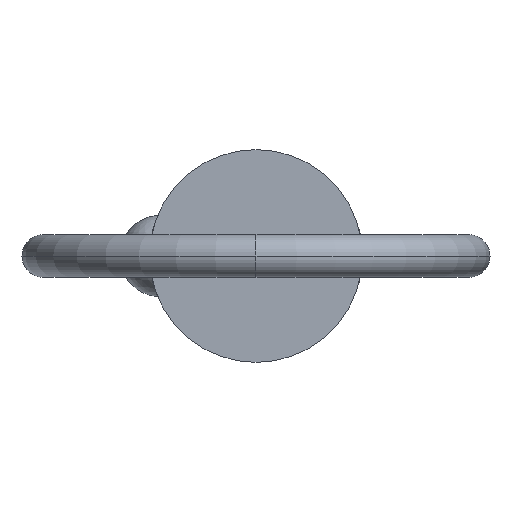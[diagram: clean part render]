
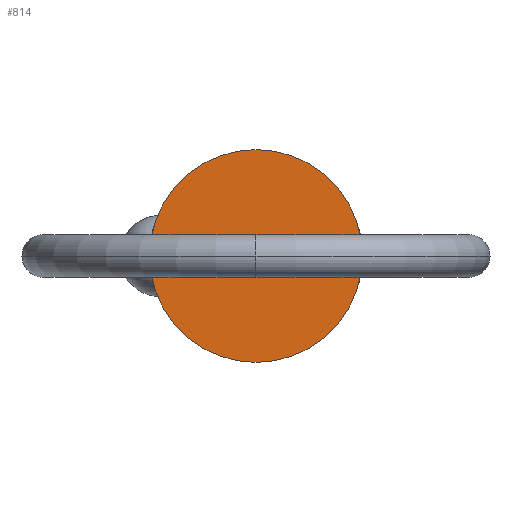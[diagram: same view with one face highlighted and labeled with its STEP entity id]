
A CAD part, left-side view. The second image highlights one B-rep face of the part: STEP entity #814.
In plain terms, the highlighted planar face has unit normal (-1, 0, 0).
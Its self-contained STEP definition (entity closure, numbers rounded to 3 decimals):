
#59 = EDGE_CURVE ( 'NONE', #478, #434, #821, .T. ) ;
#62 = PLANE ( 'NONE',  #227 ) ;
#135 = CARTESIAN_POINT ( 'NONE',  ( 0., 0., 0. ) ) ;
#227 = AXIS2_PLACEMENT_3D ( 'NONE', #135, #542, #824 ) ;
#265 = EDGE_LOOP ( 'NONE', ( #730, #725 ) ) ;
#323 = AXIS2_PLACEMENT_3D ( 'NONE', #544, #822, #757 ) ;
#339 = FACE_OUTER_BOUND ( 'NONE', #265, .T. ) ;
#434 = VERTEX_POINT ( 'NONE', #623 ) ;
#478 = VERTEX_POINT ( 'NONE', #643 ) ;
#505 = CIRCLE ( 'NONE', #639, 9.525 ) ;
#542 = DIRECTION ( 'NONE',  ( -1., 0., 0. ) ) ;
#544 = CARTESIAN_POINT ( 'NONE',  ( 0., 0., 0. ) ) ;
#553 = DIRECTION ( 'NONE',  ( 0., 0., -1. ) ) ;
#620 = DIRECTION ( 'NONE',  ( 1., 0., 0. ) ) ;
#623 = CARTESIAN_POINT ( 'NONE',  ( 0., 0., -9.525 ) ) ;
#639 = AXIS2_PLACEMENT_3D ( 'NONE', #901, #620, #553 ) ;
#643 = CARTESIAN_POINT ( 'NONE',  ( 0., 0., 9.525 ) ) ;
#725 = ORIENTED_EDGE ( 'NONE', *, *, #59, .F. ) ;
#730 = ORIENTED_EDGE ( 'NONE', *, *, #873, .F. ) ;
#757 = DIRECTION ( 'NONE',  ( 0., 0., -1. ) ) ;
#814 = ADVANCED_FACE ( 'NONE', ( #339 ), #62, .T. ) ;
#821 = CIRCLE ( 'NONE', #323, 9.525 ) ;
#822 = DIRECTION ( 'NONE',  ( 1., 0., 0. ) ) ;
#824 = DIRECTION ( 'NONE',  ( 0., 0., 1. ) ) ;
#873 = EDGE_CURVE ( 'NONE', #434, #478, #505, .T. ) ;
#901 = CARTESIAN_POINT ( 'NONE',  ( 0., 0., 0. ) ) ;
